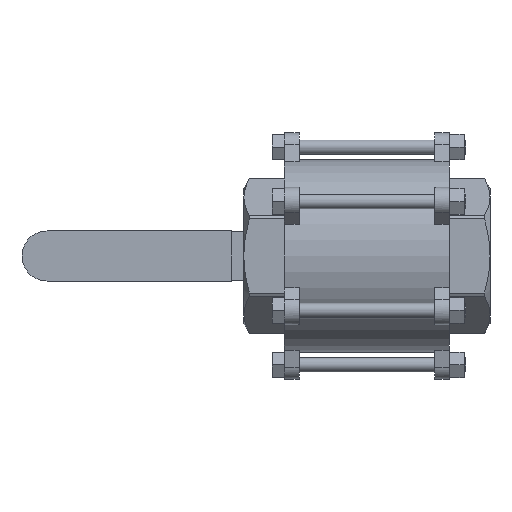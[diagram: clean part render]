
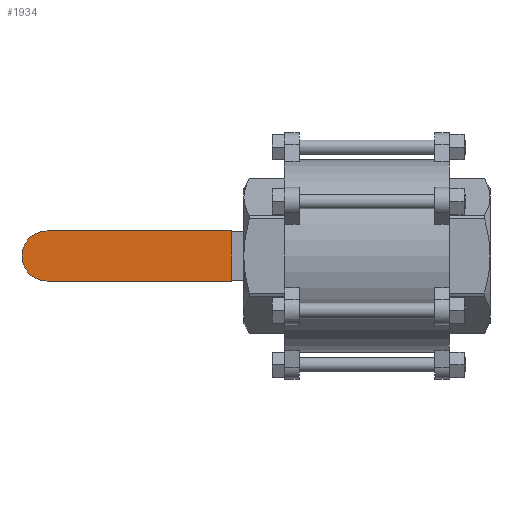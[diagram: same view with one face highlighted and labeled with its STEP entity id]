
A CAD part, front view. The second image highlights one B-rep face of the part: STEP entity #1934.
In plain terms, the highlighted planar face has unit normal (0, -1, 0).
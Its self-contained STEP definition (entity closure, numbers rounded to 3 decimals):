
#266 = CARTESIAN_POINT ( 'NONE',  ( -100., 147.5, 174.116 ) ) ;
#1269 = DIRECTION ( 'NONE',  ( 0., 0., -1. ) ) ;
#1898 = DIRECTION ( 'NONE',  ( 1., 0., 0. ) ) ;
#1934 = ADVANCED_FACE ( 'NONE', ( #11224 ), #5746, .F. ) ;
#2062 = VERTEX_POINT ( 'NONE', #6932 ) ;
#2774 = DIRECTION ( 'NONE',  ( 0., 1., 0. ) ) ;
#2883 = EDGE_CURVE ( 'NONE', #2062, #11326, #12402, .T. ) ;
#2979 = AXIS2_PLACEMENT_3D ( 'NONE', #12530, #2774, #9635 ) ;
#3220 = VERTEX_POINT ( 'NONE', #10609 ) ;
#3762 = DIRECTION ( 'NONE',  ( 0., 1., 0. ) ) ;
#3970 = LINE ( 'NONE', #9492, #10860 ) ;
#3985 = EDGE_CURVE ( 'NONE', #12019, #11326, #6649, .T. ) ;
#4281 = CIRCLE ( 'NONE', #11088, 18.5 ) ;
#4712 = CARTESIAN_POINT ( 'NONE',  ( -100., 147.5, -18.5 ) ) ;
#4829 = CARTESIAN_POINT ( 'NONE',  ( -255., 147.5, -18.5 ) ) ;
#5247 = EDGE_LOOP ( 'NONE', ( #10615, #9761, #10760, #11242 ) ) ;
#5746 = PLANE ( 'NONE',  #2979 ) ;
#6649 = LINE ( 'NONE', #4829, #8904 ) ;
#6718 = EDGE_CURVE ( 'NONE', #12019, #3220, #4281, .T. ) ;
#6932 = CARTESIAN_POINT ( 'NONE',  ( -100., 147.5, 18.5 ) ) ;
#7587 = DIRECTION ( 'NONE',  ( -1., 0., 0. ) ) ;
#8520 = CARTESIAN_POINT ( 'NONE',  ( -236.5, 147.5, -18.5 ) ) ;
#8603 = VECTOR ( 'NONE', #1269, 1000. ) ;
#8904 = VECTOR ( 'NONE', #1898, 1000. ) ;
#9492 = CARTESIAN_POINT ( 'NONE',  ( -255., 147.5, 18.5 ) ) ;
#9619 = CARTESIAN_POINT ( 'NONE',  ( -236.5, 147.5, 0. ) ) ;
#9635 = DIRECTION ( 'NONE',  ( 0., 0., 1. ) ) ;
#9761 = ORIENTED_EDGE ( 'NONE', *, *, #6718, .F. ) ;
#10609 = CARTESIAN_POINT ( 'NONE',  ( -236.5, 147.5, 18.5 ) ) ;
#10615 = ORIENTED_EDGE ( 'NONE', *, *, #10698, .T. ) ;
#10619 = DIRECTION ( 'NONE',  ( 0., 0., 1. ) ) ;
#10698 = EDGE_CURVE ( 'NONE', #2062, #3220, #3970, .T. ) ;
#10760 = ORIENTED_EDGE ( 'NONE', *, *, #3985, .T. ) ;
#10860 = VECTOR ( 'NONE', #7587, 1000. ) ;
#11088 = AXIS2_PLACEMENT_3D ( 'NONE', #9619, #3762, #10619 ) ;
#11224 = FACE_OUTER_BOUND ( 'NONE', #5247, .T. ) ;
#11242 = ORIENTED_EDGE ( 'NONE', *, *, #2883, .F. ) ;
#11326 = VERTEX_POINT ( 'NONE', #4712 ) ;
#12019 = VERTEX_POINT ( 'NONE', #8520 ) ;
#12402 = LINE ( 'NONE', #266, #8603 ) ;
#12530 = CARTESIAN_POINT ( 'NONE',  ( -255., 147.5, 174.116 ) ) ;
